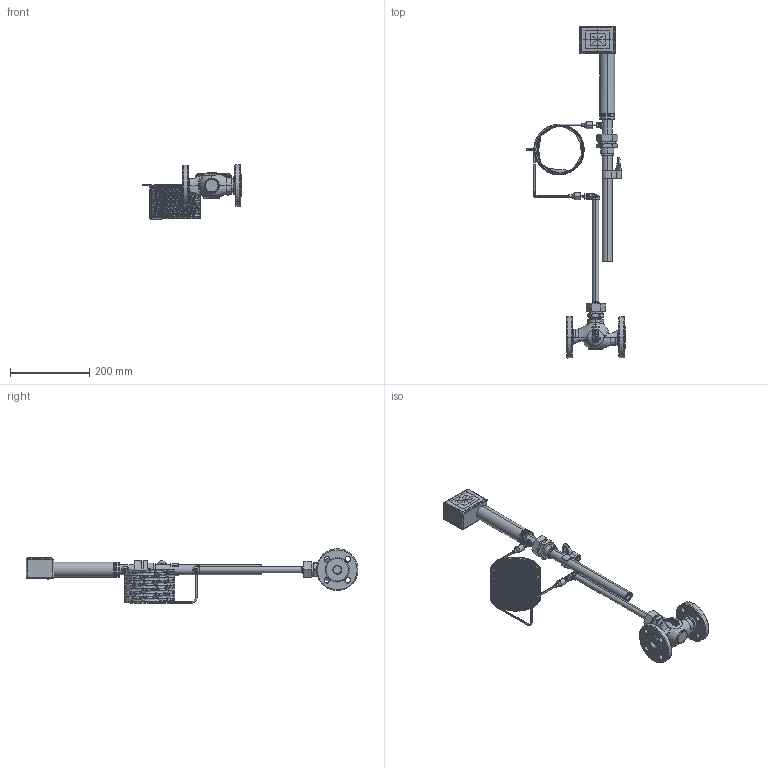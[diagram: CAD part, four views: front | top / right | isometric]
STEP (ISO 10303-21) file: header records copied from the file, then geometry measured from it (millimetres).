
FILE_DESCRIPTION (( 'STEP AP203' ), '1' );
FILE_NAME ('2359191_Pos001.STEP', '2017-03-07T15:50:13', ( '' ), ( '' ), 'SwSTEP 2.0', 'SolidWorks 2013', '' );
FILE_SCHEMA (( 'CONFIG_CONTROL_DESIGN' ));
Length unit declared in the file: millimetre
Products named in the file (5): 0230-2339_Fuehrungsnippel_Def; 2111_DN20_PN25_B_Def; 1Thermostat Typ 2231_1010616_Def; 2359191_Pos001; 0102-2182_Gehaeuse_DN20_PN25_Def
Assembly tree (4 placements, depth 3):
  2359191_Pos001
    1Thermostat Typ 2231_1010616_Def
    2111_DN20_PN25_B_Def
      0102-2182_Gehaeuse_DN20_PN25_Def
      0230-2339_Fuehrungsnippel_Def
Bounding box: 250.11 x 840.4 x 137.97 mm (x, y, z)
Volume: 1253571.8 mm3; surface area: 387787.3 mm2
Topology: 6 solids, 57 shells, 2762 faces, 7201 edges, 4662 vertices
Faces by surface type: bspline 1154, plane 979, cylinder 357, cone 131, torus 121, sphere 20
Entity records: 251903 total; most frequent: CARTESIAN_POINT 191942, ORIENTED_EDGE 14354, DIRECTION 8721, EDGE_CURVE 7177, VERTEX_POINT 4660, VECTOR 3215, LINE 3215, EDGE_LOOP 2933
